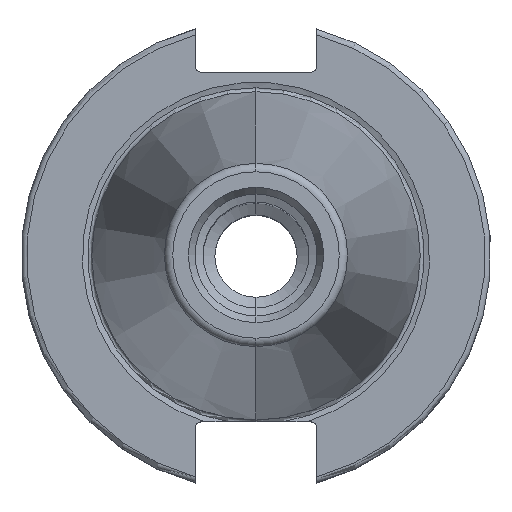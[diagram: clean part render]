
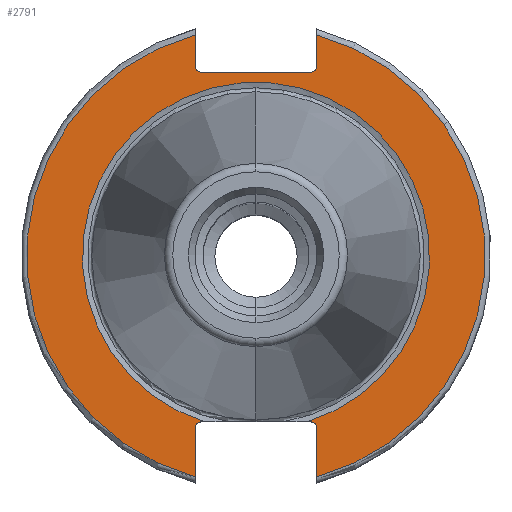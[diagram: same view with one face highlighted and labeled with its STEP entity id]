
A CAD part, top view. The second image highlights one B-rep face of the part: STEP entity #2791.
In plain terms, the highlighted planar face has unit normal (0, 0, 1).
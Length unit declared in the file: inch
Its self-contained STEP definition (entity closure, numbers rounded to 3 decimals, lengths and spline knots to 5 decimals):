
#4 = CARTESIAN_POINT ( 'NONE',  ( 0.3225, 1.1766, -0.125 ) ) ;
#42 = EDGE_CURVE ( 'NONE', #1030, #2616, #607, .T. ) ;
#50 = DIRECTION ( 'NONE',  ( 0., 1., 0. ) ) ;
#60 = VERTEX_POINT ( 'NONE', #3350 ) ;
#70 = CARTESIAN_POINT ( 'NONE',  ( 1.22, -0.8825, -0.125 ) ) ;
#124 = VERTEX_POINT ( 'NONE', #2152 ) ;
#125 = ORIENTED_EDGE ( 'NONE', *, *, #3328, .T. ) ;
#142 = AXIS2_PLACEMENT_3D ( 'NONE', #845, #574, #3648 ) ;
#176 = CARTESIAN_POINT ( 'NONE',  ( 0.27356, -0.8825, -0.125 ) ) ;
#186 = VERTEX_POINT ( 'NONE', #413 ) ;
#191 = ORIENTED_EDGE ( 'NONE', *, *, #1119, .F. ) ;
#226 = DIRECTION ( 'NONE',  ( 0., 0., -1. ) ) ;
#242 = CARTESIAN_POINT ( 'NONE',  ( 0.3225, 0., -0.125 ) ) ;
#278 = DIRECTION ( 'NONE',  ( 0., 1., 0. ) ) ;
#307 = ORIENTED_EDGE ( 'NONE', *, *, #883, .F. ) ;
#350 = VERTEX_POINT ( 'NONE', #2910 ) ;
#394 = CARTESIAN_POINT ( 'NONE',  ( -0.3225, -1.1766, -0.125 ) ) ;
#413 = CARTESIAN_POINT ( 'NONE',  ( -0.3225, -0.9125, -0.125 ) ) ;
#458 = CIRCLE ( 'NONE', #3772, 1.22 ) ;
#482 = AXIS2_PLACEMENT_3D ( 'NONE', #1421, #3601, #2915 ) ;
#553 = EDGE_CURVE ( 'NONE', #604, #1487, #2413, .T. ) ;
#574 = DIRECTION ( 'NONE',  ( 0., 0., 1. ) ) ;
#604 = VERTEX_POINT ( 'NONE', #2464 ) ;
#607 = LINE ( 'NONE', #242, #3105 ) ;
#631 = CARTESIAN_POINT ( 'NONE',  ( -0.2925, -0.8825, -0.125 ) ) ;
#682 = VECTOR ( 'NONE', #3642, 39.37008 ) ;
#739 = VERTEX_POINT ( 'NONE', #1355 ) ;
#845 = CARTESIAN_POINT ( 'NONE',  ( 1.22, 0., -0.125 ) ) ;
#846 = VERTEX_POINT ( 'NONE', #394 ) ;
#860 = CARTESIAN_POINT ( 'NONE',  ( -0.3225, 0., -0.125 ) ) ;
#883 = EDGE_CURVE ( 'NONE', #846, #1585, #1716, .T. ) ;
#898 = DIRECTION ( 'NONE',  ( 0., -1., 0. ) ) ;
#900 = DIRECTION ( 'NONE',  ( 0., -1., 0. ) ) ;
#920 = ORIENTED_EDGE ( 'NONE', *, *, #2723, .T. ) ;
#979 = ORIENTED_EDGE ( 'NONE', *, *, #553, .T. ) ;
#990 = VECTOR ( 'NONE', #1582, 39.37008 ) ;
#1001 = VERTEX_POINT ( 'NONE', #3275 ) ;
#1030 = VERTEX_POINT ( 'NONE', #3855 ) ;
#1040 = LINE ( 'NONE', #1368, #2279 ) ;
#1119 = EDGE_CURVE ( 'NONE', #1585, #2698, #2430, .T. ) ;
#1146 = DIRECTION ( 'NONE',  ( 0., 1., 0. ) ) ;
#1162 = EDGE_CURVE ( 'NONE', #1030, #124, #2238, .T. ) ;
#1170 = CARTESIAN_POINT ( 'NONE',  ( 1.22, 0.9775, -0.125 ) ) ;
#1185 = CIRCLE ( 'NONE', #2218, 0.03 ) ;
#1193 = EDGE_CURVE ( 'NONE', #350, #124, #3314, .T. ) ;
#1267 = CARTESIAN_POINT ( 'NONE',  ( -0.2925, 1.0075, -0.125 ) ) ;
#1322 = DIRECTION ( 'NONE',  ( 1., 0., 0. ) ) ;
#1355 = CARTESIAN_POINT ( 'NONE',  ( 0.3225, -0.9125, -0.125 ) ) ;
#1368 = CARTESIAN_POINT ( 'NONE',  ( -0.3225, 0., -0.125 ) ) ;
#1408 = CARTESIAN_POINT ( 'NONE',  ( -0.2925, -0.9125, -0.125 ) ) ;
#1421 = CARTESIAN_POINT ( 'NONE',  ( 0., 0., -0.125 ) ) ;
#1443 = AXIS2_PLACEMENT_3D ( 'NONE', #3682, #3705, #900 ) ;
#1453 = VERTEX_POINT ( 'NONE', #631 ) ;
#1457 = DIRECTION ( 'NONE',  ( 1., 0., 0. ) ) ;
#1480 = LINE ( 'NONE', #3658, #2659 ) ;
#1487 = VERTEX_POINT ( 'NONE', #176 ) ;
#1572 = CIRCLE ( 'NONE', #1443, 0.03 ) ;
#1582 = DIRECTION ( 'NONE',  ( 0., -1., 0. ) ) ;
#1585 = VERTEX_POINT ( 'NONE', #2259 ) ;
#1621 = DIRECTION ( 'NONE',  ( 0., 0., -1. ) ) ;
#1653 = ORIENTED_EDGE ( 'NONE', *, *, #1916, .T. ) ;
#1660 = DIRECTION ( 'NONE',  ( 0., -1., 0. ) ) ;
#1706 = ORIENTED_EDGE ( 'NONE', *, *, #2942, .T. ) ;
#1716 = CIRCLE ( 'NONE', #482, 1.22 ) ;
#1755 = FACE_OUTER_BOUND ( 'NONE', #3192, .T. ) ;
#1854 = CARTESIAN_POINT ( 'NONE',  ( -0.3225, 1.0075, -0.125 ) ) ;
#1878 = LINE ( 'NONE', #3121, #990 ) ;
#1916 = EDGE_CURVE ( 'NONE', #186, #1453, #1185, .T. ) ;
#1935 = ORIENTED_EDGE ( 'NONE', *, *, #2657, .F. ) ;
#2038 = AXIS2_PLACEMENT_3D ( 'NONE', #2403, #3916, #1146 ) ;
#2152 = CARTESIAN_POINT ( 'NONE',  ( 0.2925, 0.9775, -0.125 ) ) ;
#2175 = CIRCLE ( 'NONE', #3341, 0.03 ) ;
#2218 = AXIS2_PLACEMENT_3D ( 'NONE', #1408, #3516, #2632 ) ;
#2238 = CIRCLE ( 'NONE', #2949, 0.03 ) ;
#2259 = CARTESIAN_POINT ( 'NONE',  ( -0.3225, 1.1766, -0.125 ) ) ;
#2279 = VECTOR ( 'NONE', #3508, 39.37008 ) ;
#2389 = EDGE_CURVE ( 'NONE', #846, #186, #1040, .T. ) ;
#2403 = CARTESIAN_POINT ( 'NONE',  ( 0., 0., -0.125 ) ) ;
#2413 = CIRCLE ( 'NONE', #2038, 0.92393 ) ;
#2430 = LINE ( 'NONE', #860, #3544 ) ;
#2434 = EDGE_CURVE ( 'NONE', #1453, #604, #1480, .T. ) ;
#2464 = CARTESIAN_POINT ( 'NONE',  ( -0.27356, -0.8825, -0.125 ) ) ;
#2599 = ORIENTED_EDGE ( 'NONE', *, *, #2389, .T. ) ;
#2616 = VERTEX_POINT ( 'NONE', #4 ) ;
#2632 = DIRECTION ( 'NONE',  ( 0., -1., 0. ) ) ;
#2657 = EDGE_CURVE ( 'NONE', #2616, #1001, #458, .T. ) ;
#2659 = VECTOR ( 'NONE', #1457, 39.37008 ) ;
#2689 = EDGE_CURVE ( 'NONE', #60, #739, #1572, .T. ) ;
#2698 = VERTEX_POINT ( 'NONE', #1854 ) ;
#2722 = VECTOR ( 'NONE', #1322, 39.37008 ) ;
#2723 = EDGE_CURVE ( 'NONE', #1487, #60, #3419, .T. ) ;
#2764 = CARTESIAN_POINT ( 'NONE',  ( 0., 0., -0.125 ) ) ;
#2774 = ORIENTED_EDGE ( 'NONE', *, *, #2689, .T. ) ;
#2791 = ADVANCED_FACE ( 'NONE', ( #1755 ), #2997, .T. ) ;
#2805 = DIRECTION ( 'NONE',  ( 0., 0., -1. ) ) ;
#2910 = CARTESIAN_POINT ( 'NONE',  ( -0.2925, 0.9775, -0.125 ) ) ;
#2915 = DIRECTION ( 'NONE',  ( 0., 1., 0. ) ) ;
#2942 = EDGE_CURVE ( 'NONE', #739, #1001, #1878, .T. ) ;
#2949 = AXIS2_PLACEMENT_3D ( 'NONE', #3979, #226, #898 ) ;
#2997 = PLANE ( 'NONE',  #142 ) ;
#3105 = VECTOR ( 'NONE', #278, 39.37008 ) ;
#3121 = CARTESIAN_POINT ( 'NONE',  ( 0.3225, 0., -0.125 ) ) ;
#3192 = EDGE_LOOP ( 'NONE', ( #191, #307, #2599, #1653, #3839, #979, #920, #2774, #1706, #1935, #3660, #3429, #3200, #125 ) ) ;
#3200 = ORIENTED_EDGE ( 'NONE', *, *, #1193, .F. ) ;
#3275 = CARTESIAN_POINT ( 'NONE',  ( 0.3225, -1.1766, -0.125 ) ) ;
#3314 = LINE ( 'NONE', #1170, #682 ) ;
#3328 = EDGE_CURVE ( 'NONE', #350, #2698, #2175, .T. ) ;
#3333 = DIRECTION ( 'NONE',  ( 0., -1., 0. ) ) ;
#3341 = AXIS2_PLACEMENT_3D ( 'NONE', #1267, #1621, #1660 ) ;
#3350 = CARTESIAN_POINT ( 'NONE',  ( 0.2925, -0.8825, -0.125 ) ) ;
#3419 = LINE ( 'NONE', #70, #2722 ) ;
#3429 = ORIENTED_EDGE ( 'NONE', *, *, #1162, .T. ) ;
#3508 = DIRECTION ( 'NONE',  ( 0., 1., 0. ) ) ;
#3516 = DIRECTION ( 'NONE',  ( 0., 0., -1. ) ) ;
#3544 = VECTOR ( 'NONE', #3333, 39.37008 ) ;
#3601 = DIRECTION ( 'NONE',  ( 0., 0., -1. ) ) ;
#3642 = DIRECTION ( 'NONE',  ( 1., 0., 0. ) ) ;
#3648 = DIRECTION ( 'NONE',  ( 0., -1., 0. ) ) ;
#3658 = CARTESIAN_POINT ( 'NONE',  ( 1.22, -0.8825, -0.125 ) ) ;
#3660 = ORIENTED_EDGE ( 'NONE', *, *, #42, .F. ) ;
#3682 = CARTESIAN_POINT ( 'NONE',  ( 0.2925, -0.9125, -0.125 ) ) ;
#3705 = DIRECTION ( 'NONE',  ( 0., 0., -1. ) ) ;
#3772 = AXIS2_PLACEMENT_3D ( 'NONE', #2764, #2805, #50 ) ;
#3839 = ORIENTED_EDGE ( 'NONE', *, *, #2434, .T. ) ;
#3855 = CARTESIAN_POINT ( 'NONE',  ( 0.3225, 1.0075, -0.125 ) ) ;
#3916 = DIRECTION ( 'NONE',  ( 0., 0., -1. ) ) ;
#3979 = CARTESIAN_POINT ( 'NONE',  ( 0.2925, 1.0075, -0.125 ) ) ;
